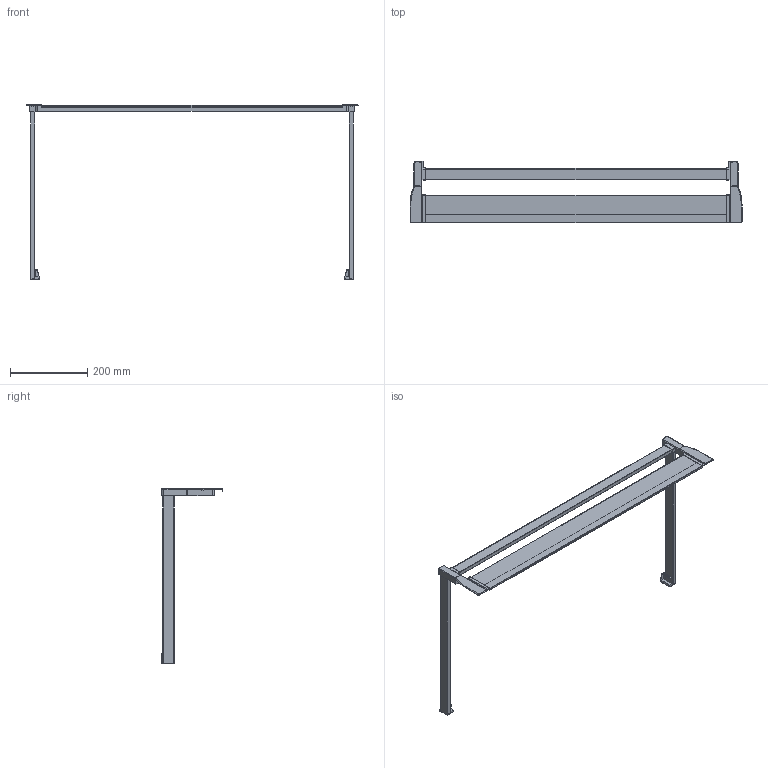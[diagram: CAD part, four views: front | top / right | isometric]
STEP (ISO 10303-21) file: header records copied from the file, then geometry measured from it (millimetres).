
FILE_DESCRIPTION (( 'STEP AP214' ), '1' );
FILE_NAME ('1_P620_NL 450_KAB 900_16er KS_.step', '2009-09-16T06:29:34', ( 'Waldinger Reinhard' ), ( 'Grass GmbH' ), 'SwSTEP 2.0', 'SolidWorks 2009', '' );
FILE_SCHEMA (( 'AUTOMOTIVE_DESIGN' ));
Length unit declared in the file: millimetre
Products named in the file (1): 1_P620_NL 450_KAB 900_16er KS_
Bounding box: 859.6 x 160.5 x 452.8 mm (x, y, z)
Volume: 1304033.1 mm3; surface area: 304510.2 mm2
Topology: 1 solids, 1 shells, 218 faces, 576 edges, 364 vertices
Faces by surface type: plane 97, cylinder 89, torus 28, sphere 2, bspline 2
Entity records: 6974 total; most frequent: CARTESIAN_POINT 1341, DIRECTION 1192, ORIENTED_EDGE 1148, EDGE_CURVE 574, AXIS2_PLACEMENT_3D 431, VERTEX_POINT 364, VECTOR 330, LINE 330
